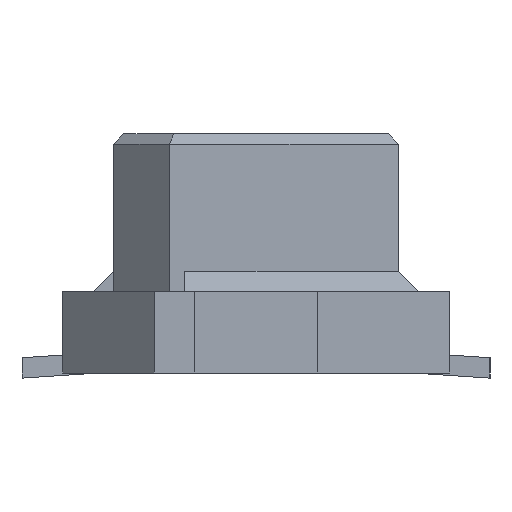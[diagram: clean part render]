
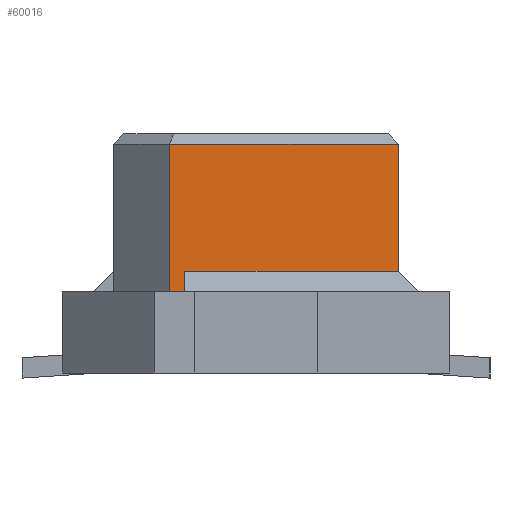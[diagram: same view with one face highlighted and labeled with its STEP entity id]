
A CAD part, left-side view. The second image highlights one B-rep face of the part: STEP entity #60016.
In plain terms, the highlighted planar face has unit normal (-1, 0, 0).
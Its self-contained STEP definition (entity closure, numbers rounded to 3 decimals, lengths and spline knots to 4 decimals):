
#359 = CARTESIAN_POINT ( 'NONE',  ( -15.8, -1.4, 2.3 ) ) ;
#1272 = CARTESIAN_POINT ( 'NONE',  ( -15.8, -1.4, 1.05 ) ) ;
#2187 = CARTESIAN_POINT ( 'NONE',  ( -15.8, 0.85, 0.85 ) ) ;
#2188 = DIRECTION ( 'NONE',  ( 0., 1., 0. ) ) ;
#2189 = VECTOR ( 'NONE', #2188, 1000. ) ;
#2190 = CARTESIAN_POINT ( 'NONE',  ( -15.8, -1.4, 0.85 ) ) ;
#2191 = LINE ( 'NONE', #2190, #2189 ) ;
#2192 = CARTESIAN_POINT ( 'NONE',  ( -15.8, 0.7, 0.85 ) ) ;
#2950 = LINE ( 'NONE', #3012, #3011 ) ;
#2986 = DIRECTION ( 'NONE',  ( 0., 0., -1. ) ) ;
#2987 = VECTOR ( 'NONE', #2986, 1000. ) ;
#2988 = CARTESIAN_POINT ( 'NONE',  ( -15.8, -1.4, 2.4 ) ) ;
#2989 = LINE ( 'NONE', #2988, #2987 ) ;
#3009 = CARTESIAN_POINT ( 'NONE',  ( -15.8, 0.7, 1.05 ) ) ;
#3010 = DIRECTION ( 'NONE',  ( 0., 1., 0. ) ) ;
#3011 = VECTOR ( 'NONE', #3010, 1000. ) ;
#3012 = CARTESIAN_POINT ( 'NONE',  ( -15.8, -1.4, 1.05 ) ) ;
#3082 = DIRECTION ( 'NONE',  ( 0., 0., 1. ) ) ;
#3083 = VECTOR ( 'NONE', #3082, 1000. ) ;
#3084 = CARTESIAN_POINT ( 'NONE',  ( -15.8, 0.7, 0.85 ) ) ;
#3085 = LINE ( 'NONE', #3084, #3083 ) ;
#3086 = DIRECTION ( 'NONE',  ( 0., 0., -1. ) ) ;
#3087 = VECTOR ( 'NONE', #3086, 1000. ) ;
#3088 = CARTESIAN_POINT ( 'NONE',  ( -15.8, 0.85, 2.4 ) ) ;
#3089 = LINE ( 'NONE', #3088, #3087 ) ;
#3090 = CARTESIAN_POINT ( 'NONE',  ( -15.8, 0.85, 2.3 ) ) ;
#3091 = DIRECTION ( 'NONE',  ( 0., 1., 0. ) ) ;
#3092 = VECTOR ( 'NONE', #3091, 1000. ) ;
#3093 = CARTESIAN_POINT ( 'NONE',  ( -15.8, 0.85, 2.3 ) ) ;
#3094 = LINE ( 'NONE', #3093, #3092 ) ;
#3115 = DIRECTION ( 'NONE',  ( 0., -1., 0. ) ) ;
#3116 = DIRECTION ( 'NONE',  ( -1., 0., 0. ) ) ;
#3117 = CARTESIAN_POINT ( 'NONE',  ( -15.8, -1.4, 2.4 ) ) ;
#3118 = AXIS2_PLACEMENT_3D ( 'NONE', #3117, #3116, #3115 ) ;
#3119 = PLANE ( 'NONE',  #3118 ) ;
#3120 = FACE_OUTER_BOUND ( 'NONE', #60017, .T. ) ;
#58070 = VERTEX_POINT ( 'NONE', #359 ) ;
#58605 = VERTEX_POINT ( 'NONE', #1272 ) ;
#59177 = VERTEX_POINT ( 'NONE', #2192 ) ;
#59179 = EDGE_CURVE ( 'NONE', #59177, #59180, #2191, .T. ) ;
#59180 = VERTEX_POINT ( 'NONE', #2187 ) ;
#59935 = EDGE_CURVE ( 'NONE', #58605, #59936, #2950, .T. ) ;
#59936 = VERTEX_POINT ( 'NONE', #3009 ) ;
#59937 = ORIENTED_EDGE ( 'NONE', *, *, #59950, .F. ) ;
#59950 = EDGE_CURVE ( 'NONE', #58070, #58605, #2989, .T. ) ;
#59993 = ORIENTED_EDGE ( 'NONE', *, *, #59994, .T. ) ;
#59994 = EDGE_CURVE ( 'NONE', #58070, #59995, #3094, .T. ) ;
#59995 = VERTEX_POINT ( 'NONE', #3090 ) ;
#59996 = ORIENTED_EDGE ( 'NONE', *, *, #59997, .T. ) ;
#59997 = EDGE_CURVE ( 'NONE', #59995, #59180, #3089, .T. ) ;
#59998 = ORIENTED_EDGE ( 'NONE', *, *, #59179, .F. ) ;
#59999 = ORIENTED_EDGE ( 'NONE', *, *, #60000, .T. ) ;
#60000 = EDGE_CURVE ( 'NONE', #59177, #59936, #3085, .T. ) ;
#60016 = ADVANCED_FACE ( 'NONE', ( #3120 ), #3119, .T. ) ;
#60017 = EDGE_LOOP ( 'NONE', ( #60018, #59937, #59993, #59996, #59998, #59999 ) ) ;
#60018 = ORIENTED_EDGE ( 'NONE', *, *, #59935, .F. ) ;
